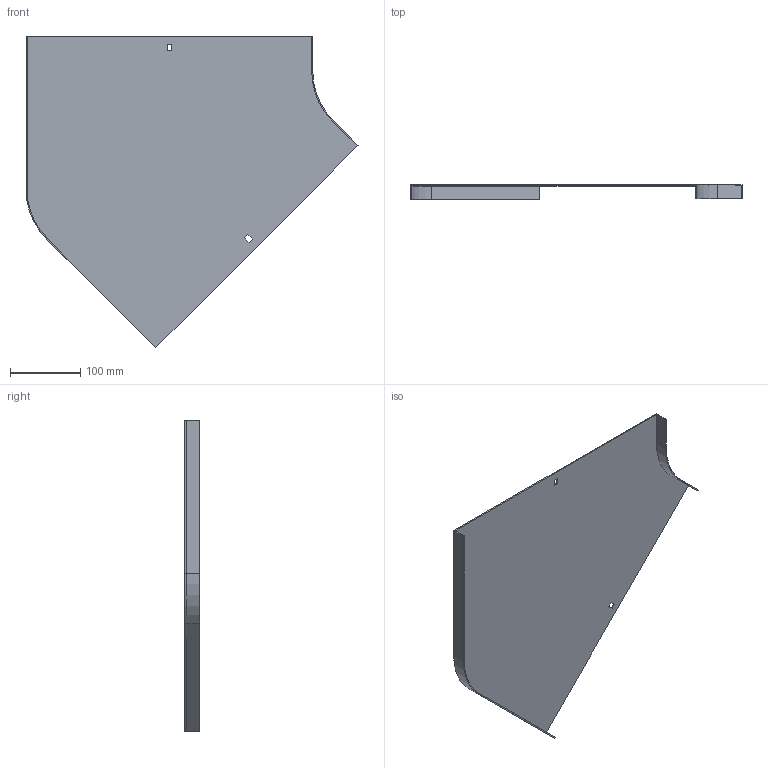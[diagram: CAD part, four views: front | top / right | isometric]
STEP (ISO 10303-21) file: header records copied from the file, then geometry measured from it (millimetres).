
FILE_DESCRIPTION (( 'STEP AP214' ), '1' );
FILE_NAME ('11N1R400.step', '2025-02-21T09:21:10', ( '' ), ( '' ), 'SwSTEP 2.0', 'SolidWorks 2023', '' );
FILE_SCHEMA (( 'AUTOMOTIVE_DESIGN' ));
Length unit declared in the file: millimetre
Products named in the file (1): 11N1R400
Bounding box: 471.21 x 20 x 442.8 mm (x, y, z)
Volume: 232789.5 mm3; surface area: 312848.7 mm2
Topology: 1 solids, 1 shells, 26 faces, 72 edges, 48 vertices
Faces by surface type: plane 22, cylinder 4
Entity records: 855 total; most frequent: CARTESIAN_POINT 147, ORIENTED_EDGE 144, DIRECTION 134, EDGE_CURVE 72, VECTOR 64, LINE 64, VERTEX_POINT 48, AXIS2_PLACEMENT_3D 35
